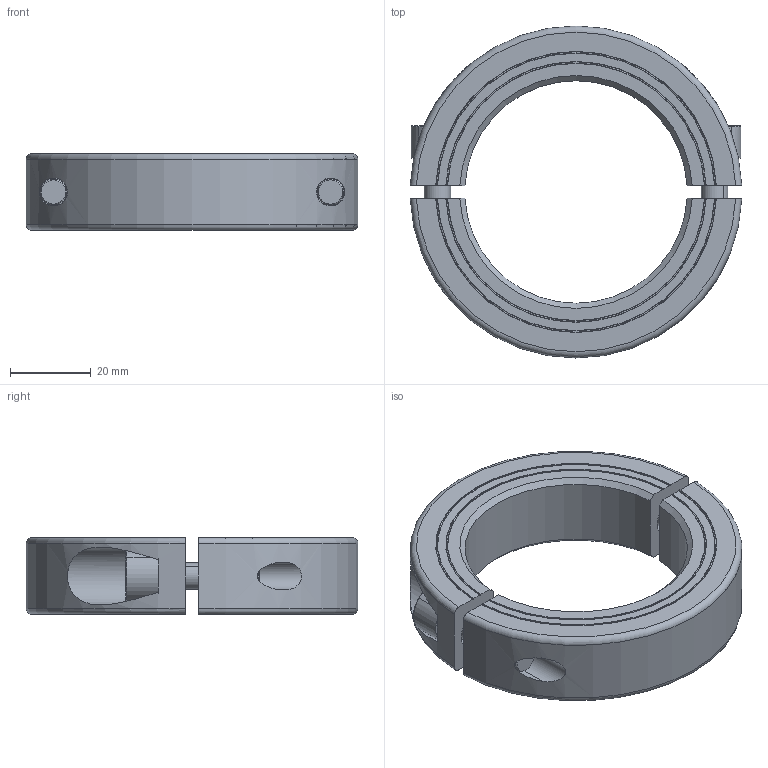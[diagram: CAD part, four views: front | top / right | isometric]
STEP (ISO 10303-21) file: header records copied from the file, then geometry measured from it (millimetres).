
FILE_DESCRIPTION((''),'2;1');
FILE_NAME('MSP-55-X','2016-09-09T',('SYSTEM'),(''),'PRO/ENGINEER BY PARAMETRIC TECHNOLOGY CORPORATION, 2015110','PRO/ENGINEER BY PARAMETRIC TECHNOLOGY CORPORATION, 2015110','');
FILE_SCHEMA(('AUTOMOTIVE_DESIGN { 1 0 10303 214 1 1 1 1 }'));
Length unit declared in the file: inch
Products named in the file (1): MSP-55-X
Bounding box: 81.94 x 82 x 19 mm (x, y, z)
Volume: 49995.9 mm3; surface area: 17771.3 mm2
Topology: 2 solids, 2 shells, 90 faces, 222 edges, 144 vertices
Faces by surface type: plane 36, cylinder 26, cone 20, torus 8
Entity records: 3578 total; most frequent: CARTESIAN_POINT 769, ORIENTED_EDGE 444, DIRECTION 430, EDGE_CURVE 222, AXIS2_PLACEMENT_3D 168, VERTEX_POINT 144, EDGE_LOOP 102, VECTOR 94
